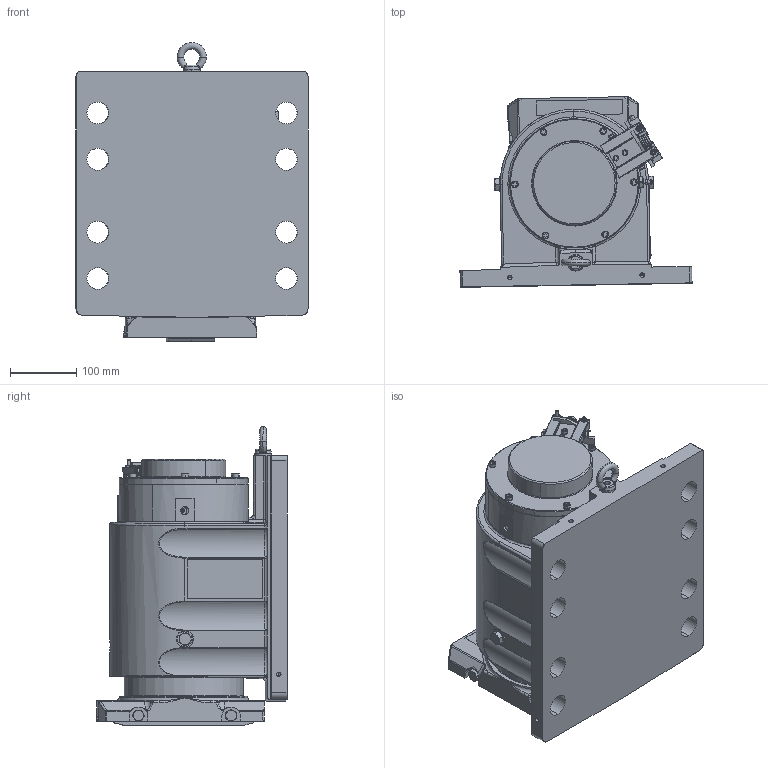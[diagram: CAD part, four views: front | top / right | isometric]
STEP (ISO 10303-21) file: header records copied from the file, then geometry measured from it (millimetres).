
FILE_DESCRIPTION((''),'2;1');
FILE_NAME('HR_130_FHM-200_ASM','2021-10-19T',('BOLS'),(''),'CREO PARAMETRIC BY PTC INC, 2018360','CREO PARAMETRIC BY PTC INC, 2018360','');
FILE_SCHEMA(('CONFIG_CONTROL_DESIGN'));
Products named in the file (63): 12712_SOUS_ENSEMBLE_COUVER-1930; 12712_SOUS_ENSEMBLE_COUVER-4683; 12712_SOUS_ENSEMBLE_COUVER-5441; ANNEAU_DE_LEVAGE_M10_DIN582__CO; 11547-031_PLAQUE_FIRME-1-SOLID1; 12712_SOUS_ENSEMBLE_COUVER-8352; 12712_SOUS_ENSEMBLE_COUVER-8424; 10420_PI1_E50-8840; 12712_SOUS_ENSEMBLE_COUVER-8991; VIS_H_M10-2-SOLID1; 12712_SOUS_ENSEMBLE_COUVER-9797; 12712_SOUS_ENSEMBLE_COUVE-10181; 12712_SOUS_ENSEMBLE_COUVE-10625; 12712_SOUS_ENSEMBLE_COUVE-11281; 12654-001_CORPS_APPUI_RAIL_110K; 12712_SOUS_ENSEMBLE_COUVE-14595; 11271-017_-_VIS_DE_PURGE-1-SOLI; 12712_SOUS_ENSEMBLE_COUVE-15806; 12712-005_CYLINDRE_S190-3-SOLID; 12712_SOUS_ENSEMBLE_COUVE-16217; RONDELLES_NORM_TYPE_Z-57-SOLID1; 12712_SOUS_ENSEMBLE_COUVE-17667; RONDELLES_NORM_TYPE_Z-58-SOLID1; 12712_SOUS_ENSEMBLE_COUVE-20002; 12712_SOUS_ENSEMBLE_COUVE-24069; 12712_SOUS_ENSEMBLE_COUVE-25816; RIVET_2X8-2-SOLID1; 12654-015_REPRISE_DE_VIS_-28314; 12712_SOUS_ENSEMBLE_COUVE-29328; 12712_SOUS_ENSEMBLE_COUVE-29486; 12712_SOUS_ENSEMBLE_COUVE-31562; 12712_SOUS_ENSEMBLE_COUVE-32028; 12712_SOUS_ENSEMBLE_COUVE-33451; VIS_H_M10-3-SOLID1; 12712_SOUS_ENSEMBLE_COUVE-34295; 12712_SOUS_ENSEMBLE_COUVE-35420; 12654-029_GARNITURE__P_20-1-SOL; RIVET_2X8-4-SOLID1; VIS_H_M10-4-SOLID1; 12712_SOUS_ENSEMBLE_COUVE-38666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
Assembly tree (62 placements, depth 2):
  HR_130_FHM-200_ASM
    12712_SOUS_ENSEMBLE_COUVER-1930
    12712_SOUS_ENSEMBLE_COUVER-4683
    12712_SOUS_ENSEMBLE_COUVER-5441
    ANNEAU_DE_LEVAGE_M10_DIN582__CO
    11547-031_PLAQUE_FIRME-1-SOLID1
    12712_SOUS_ENSEMBLE_COUVER-8352
    12712_SOUS_ENSEMBLE_COUVER-8424
    10420_PI1_E50-8840
    12712_SOUS_ENSEMBLE_COUVER-8991
    VIS_H_M10-2-SOLID1
    12712_SOUS_ENSEMBLE_COUVER-9797
    12712_SOUS_ENSEMBLE_COUVE-10181
    12712_SOUS_ENSEMBLE_COUVE-10625
    12712_SOUS_ENSEMBLE_COUVE-11281
    12654-001_CORPS_APPUI_RAIL_110K
    12712_SOUS_ENSEMBLE_COUVE-14595
    11271-017_-_VIS_DE_PURGE-1-SOLI
    12712_SOUS_ENSEMBLE_COUVE-15806
    12712-005_CYLINDRE_S190-3-SOLID
    12712_SOUS_ENSEMBLE_COUVE-16217
    RONDELLES_NORM_TYPE_Z-57-SOLID1
    12712_SOUS_ENSEMBLE_COUVE-17667
    RONDELLES_NORM_TYPE_Z-58-SOLID1
    12712_SOUS_ENSEMBLE_COUVE-20002
    12712_SOUS_ENSEMBLE_COUVE-24069
    12712_SOUS_ENSEMBLE_COUVE-25816
    RIVET_2X8-2-SOLID1
    12654-015_REPRISE_DE_VIS_-28314
    12712_SOUS_ENSEMBLE_COUVE-29328
    12712_SOUS_ENSEMBLE_COUVE-29486
    12712_SOUS_ENSEMBLE_COUVE-31562
    12712_SOUS_ENSEMBLE_COUVE-32028
    12712_SOUS_ENSEMBLE_COUVE-33451
    VIS_H_M10-3-SOLID1
    12712_SOUS_ENSEMBLE_COUVE-34295
    12712_SOUS_ENSEMBLE_COUVE-35420
    12654-029_GARNITURE__P_20-1-SOL
    RIVET_2X8-4-SOLID1
    VIS_H_M10-4-SOLID1
    12712_SOUS_ENSEMBLE_COUVE-38666
    VIS_H_M10-1-SOLID1
    12712_SOUS_ENSEMBLE_COUVE-42505
    12712_SOUS_ENSEMBLE_COUVE-45174
    12654-029_GARNITURE__P_20-2-SOL
    12654-002_PORTE_GARNITURE_AP110
    12712_SOUS_ENSEMBLE_COUVE-47307
    12712_SOUS_ENSEMBLE_COUVE-47870
    12712_SOUS_ENSEMBLE_COUVE-48765
    12712_SOUS_ENSEMBLE_COUVE-49188
    12712_SOUS_ENSEMBLE_COUVE-49192
    12712_SOUS_ENSEMBLE_COUVE-50086
    12654-015_REPRISE_DE_VIS_-51713
    RIVET_2X8-1-SOLID1
    RIVET_2X8-3-SOLID1
    12712_SOUS_ENSEMBLE_COUVE-54293
    12712-020_ADAPTATEUR_VIS_PURGE-
    12712_SOUS_ENSEMBLE_COUVE-56923
    12712_SOUS_ENSEMBLE_COUVE-58459
    12712_SOUS_ENSEMBLE_COUVE-58611
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Bounding box: 350.37 x 287.98 x 451.3 mm (x, y, z)
Volume: 9643181.3 mm3; surface area: 1041306 mm2
Topology: 62 solids, 62 shells, 1749 faces, 4243 edges, 2642 vertices
Faces by surface type: plane 648, cylinder 581, cone 257, bspline 126, torus 107, sphere 26, revolution 4
Entity records: 91017 total; most frequent: CARTESIAN_POINT 24381, DIRECTION 8659, ORIENTED_EDGE 8362, PRESENTATION_STYLE_ASSIGNMENT 5928, STYLED_ITEM 5928, CURVE_STYLE 4185, EDGE_CURVE 4181, AXIS2_PLACEMENT_3D 3407
